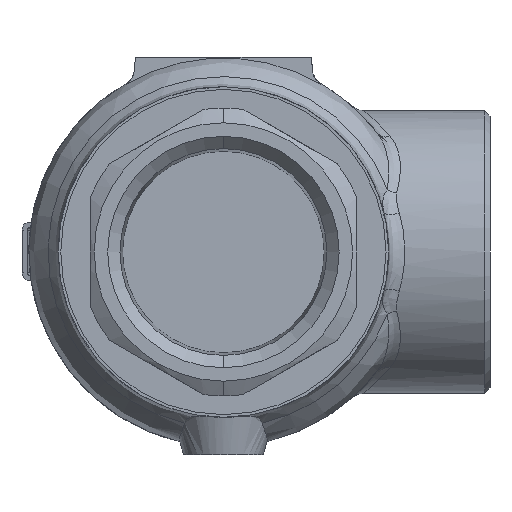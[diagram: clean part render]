
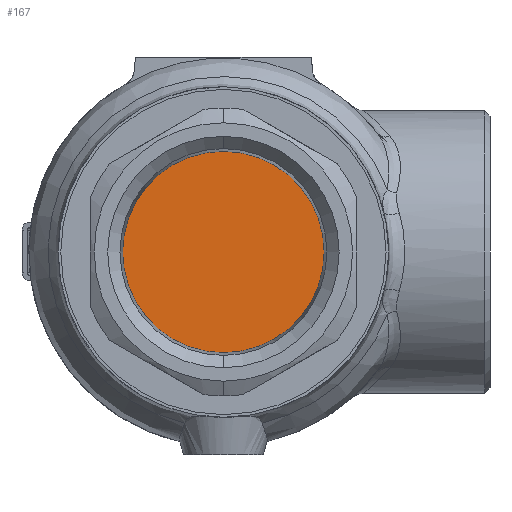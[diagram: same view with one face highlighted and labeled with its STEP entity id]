
A CAD part, front view. The second image highlights one B-rep face of the part: STEP entity #167.
In plain terms, the highlighted planar face has unit normal (0, -1, 0).
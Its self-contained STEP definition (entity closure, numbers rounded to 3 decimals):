
#167=ADVANCED_FACE('',(#816),#815,.F.);
#815=PLANE('',#2478);
#816=FACE_OUTER_BOUND('',#2479,.T.);
#2475=CARTESIAN_POINT('',(-39.283,-43.,-43.47));
#2476=DIRECTION('',(0.,1.,0.));
#2477=DIRECTION('',(0.,0.,1.));
#2478=AXIS2_PLACEMENT_3D('',#2475,#2476,#2477);
#2479=EDGE_LOOP('',(#3643,#3644));
#3643=ORIENTED_EDGE('',*,*,#4249,.F.);
#3644=ORIENTED_EDGE('',*,*,#4250,.F.);
#4249=EDGE_CURVE('',#5602,#5603,#5604,.T.);
#4250=EDGE_CURVE('',#5603,#5602,#5610,.T.);
#5602=VERTEX_POINT('',#7864);
#5603=VERTEX_POINT('',#7865);
#5604=CIRCLE('',#7869,18.9);
#5610=CIRCLE('',#7873,18.9);
#7864=CARTESIAN_POINT('',(0.,-43.,-18.9));
#7865=CARTESIAN_POINT('',(0.,-43.,18.9));
#7866=CARTESIAN_POINT('',(0.,-43.,0.));
#7867=DIRECTION('',(0.,1.,0.));
#7868=DIRECTION('',(0.,0.,1.));
#7869=AXIS2_PLACEMENT_3D('',#7866,#7867,#7868);
#7870=CARTESIAN_POINT('',(0.,-43.,0.));
#7871=DIRECTION('',(0.,1.,0.));
#7872=DIRECTION('',(0.,0.,1.));
#7873=AXIS2_PLACEMENT_3D('',#7870,#7871,#7872);
